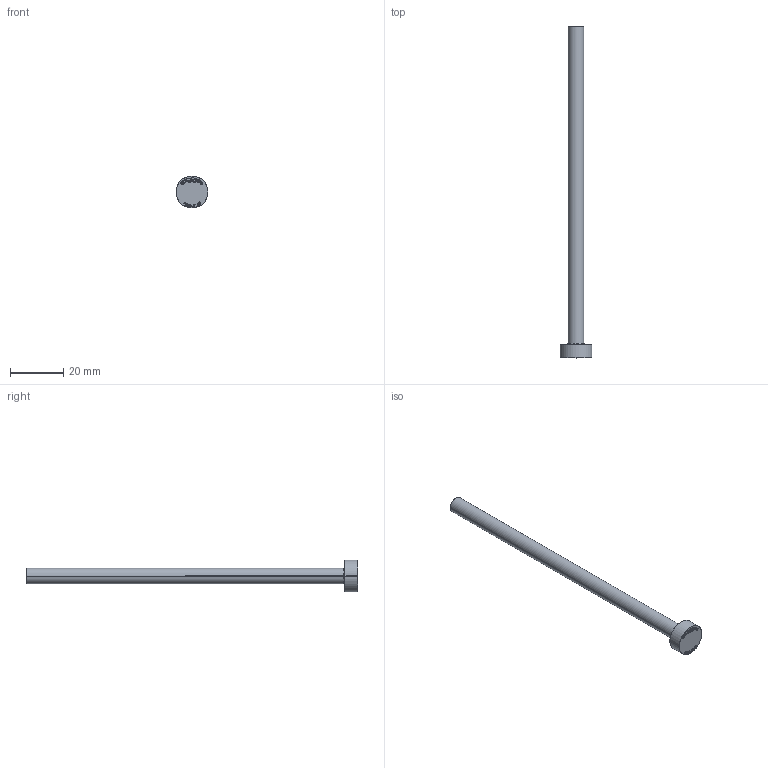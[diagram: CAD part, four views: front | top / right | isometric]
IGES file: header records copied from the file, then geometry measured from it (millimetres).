
Start section: SolidWorks IGES file using analytic representation for surfaces
Global section: file name: C:\Users\User\Downloads\Matripeça 31-08 tar\PB - PINO EXTRATOR TIPO _B_ (CATÁLOGO)\PB06,0\PB06,0125.IGS; native system: SolidWorks 2024; preprocessor: SolidWorks 2024; author: User; date: 260901.143312; units: millimetre
Bounding box: 12 x 125 x 12 mm (x, y, z)
Surface area: 2682.1 mm2 (no closed solid volume)
Topology: 0 solids, 0 shells, 401 faces, 3692 edges, 3692 vertices
Faces by surface type: bspline 387, revolution 14
